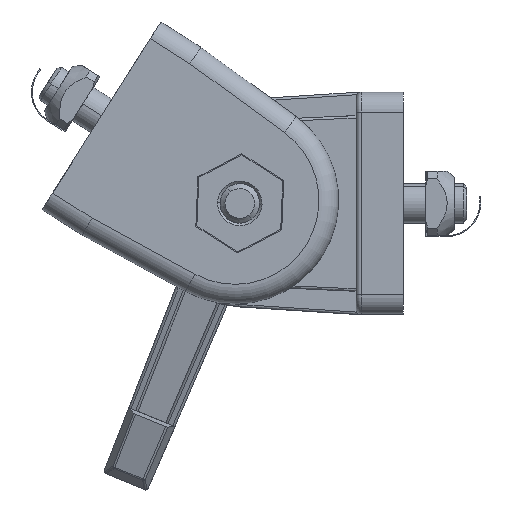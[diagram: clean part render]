
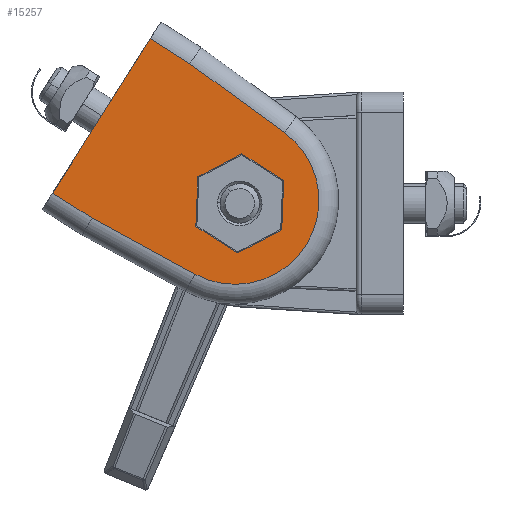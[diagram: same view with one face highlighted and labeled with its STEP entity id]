
A CAD part, left-side view. The second image highlights one B-rep face of the part: STEP entity #15257.
In plain terms, the highlighted planar face has unit normal (-1, 0, 0) as drawn and (1, 0, 0) by its records, which use the part's own axes.
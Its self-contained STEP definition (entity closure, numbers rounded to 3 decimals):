
#126 = EDGE_CURVE ( 'NONE', #1250, #7880, #1759, .T. ) ;
#231 = CARTESIAN_POINT ( 'NONE',  ( 22.5, 9.47, -18.5 ) ) ;
#339 = DIRECTION ( 'NONE',  ( 0., 0., 1. ) ) ;
#542 = CARTESIAN_POINT ( 'NONE',  ( 22.5, 9.6, 18.5 ) ) ;
#691 = VERTEX_POINT ( 'NONE', #8031 ) ;
#952 = DIRECTION ( 'NONE',  ( 0., -0.998, 0.065 ) ) ;
#1250 = VERTEX_POINT ( 'NONE', #6195 ) ;
#1322 = FACE_OUTER_BOUND ( 'NONE', #1824, .T. ) ;
#1592 = EDGE_CURVE ( 'NONE', #2680, #8311, #2579, .T. ) ;
#1629 = CARTESIAN_POINT ( 'NONE',  ( 22.5, 44.537, 2.329 ) ) ;
#1671 = DIRECTION ( 'NONE',  ( 0., -1., 0. ) ) ;
#1741 = VECTOR ( 'NONE', #8243, 1000. ) ;
#1759 = LINE ( 'NONE', #542, #8146 ) ;
#1824 = EDGE_LOOP ( 'NONE', ( #9660, #10597, #10703, #3017, #2762, #3650 ) ) ;
#1933 = VERTEX_POINT ( 'NONE', #10987 ) ;
#2477 = ORIENTED_EDGE ( 'NONE', *, *, #13490, .F. ) ;
#2535 = DIRECTION ( 'NONE',  ( 0., 0.5, -0.866 ) ) ;
#2562 = DIRECTION ( 'NONE',  ( -1., 0., 0. ) ) ;
#2579 = LINE ( 'NONE', #11571, #7726 ) ;
#2619 = EDGE_CURVE ( 'NONE', #8311, #13836, #4952, .T. ) ;
#2680 = VERTEX_POINT ( 'NONE', #6460 ) ;
#2762 = ORIENTED_EDGE ( 'NONE', *, *, #3822, .T. ) ;
#2855 = ORIENTED_EDGE ( 'NONE', *, *, #1592, .F. ) ;
#2946 = CARTESIAN_POINT ( 'NONE',  ( 22.5, 9.6, 8.7 ) ) ;
#3017 = ORIENTED_EDGE ( 'NONE', *, *, #4027, .T. ) ;
#3125 = CIRCLE ( 'NONE', #10044, 17. ) ;
#3160 = ORIENTED_EDGE ( 'NONE', *, *, #2619, .F. ) ;
#3346 = ORIENTED_EDGE ( 'NONE', *, *, #11575, .F. ) ;
#3413 = VERTEX_POINT ( 'NONE', #231 ) ;
#3650 = ORIENTED_EDGE ( 'NONE', *, *, #126, .T. ) ;
#3822 = EDGE_CURVE ( 'NONE', #9044, #1250, #4677, .T. ) ;
#4027 = EDGE_CURVE ( 'NONE', #12937, #9044, #3125, .T. ) ;
#4045 = PLANE ( 'NONE',  #9208 ) ;
#4184 = CARTESIAN_POINT ( 'NONE',  ( 22.5, 28.123, -8.7 ) ) ;
#4677 = LINE ( 'NONE', #9773, #11650 ) ;
#4907 = DIRECTION ( 'NONE',  ( 0., -0.5, -0.866 ) ) ;
#4952 = LINE ( 'NONE', #10048, #5358 ) ;
#5358 = VECTOR ( 'NONE', #2535, 1000. ) ;
#5384 = CARTESIAN_POINT ( 'NONE',  ( 22.5, 9.6, -8.7 ) ) ;
#5410 = CARTESIAN_POINT ( 'NONE',  ( 22.5, 43.192, 0. ) ) ;
#5732 = LINE ( 'NONE', #9569, #10425 ) ;
#5939 = ORIENTED_EDGE ( 'NONE', *, *, #6788, .F. ) ;
#5991 = DIRECTION ( 'NONE',  ( 0., 0.998, 0.065 ) ) ;
#6195 = CARTESIAN_POINT ( 'NONE',  ( 22.5, 9.47, 18.5 ) ) ;
#6300 = VECTOR ( 'NONE', #9203, 1000. ) ;
#6405 = VECTOR ( 'NONE', #11826, 1000. ) ;
#6460 = CARTESIAN_POINT ( 'NONE',  ( 22.5, 28.123, 8.7 ) ) ;
#6605 = EDGE_CURVE ( 'NONE', #1933, #3413, #8989, .T. ) ;
#6788 = EDGE_CURVE ( 'NONE', #9156, #691, #5732, .T. ) ;
#6790 = DIRECTION ( 'NONE',  ( 0., -1., 0. ) ) ;
#6830 = EDGE_CURVE ( 'NONE', #3413, #12937, #7254, .T. ) ;
#7254 = LINE ( 'NONE', #9983, #11759 ) ;
#7272 = VERTEX_POINT ( 'NONE', #11212 ) ;
#7349 = VECTOR ( 'NONE', #6790, 1000. ) ;
#7726 = VECTOR ( 'NONE', #4907, 1000. ) ;
#7880 = VERTEX_POINT ( 'NONE', #14967 ) ;
#8031 = CARTESIAN_POINT ( 'NONE',  ( 22.5, 38.169, 8.7 ) ) ;
#8146 = VECTOR ( 'NONE', #1671, 1000. ) ;
#8243 = DIRECTION ( 'NONE',  ( 0., 1., 0. ) ) ;
#8311 = VERTEX_POINT ( 'NONE', #12633 ) ;
#8518 = DIRECTION ( 'NONE',  ( 0., 0., 1. ) ) ;
#8989 = LINE ( 'NONE', #11573, #6405 ) ;
#9044 = VERTEX_POINT ( 'NONE', #10174 ) ;
#9156 = VERTEX_POINT ( 'NONE', #5410 ) ;
#9203 = DIRECTION ( 'NONE',  ( 0., 0.5, 0.866 ) ) ;
#9208 = AXIS2_PLACEMENT_3D ( 'NONE', #11645, #2562, #339 ) ;
#9569 = CARTESIAN_POINT ( 'NONE',  ( 22.5, 25.051, 31.421 ) ) ;
#9660 = ORIENTED_EDGE ( 'NONE', *, *, #13415, .T. ) ;
#9773 = CARTESIAN_POINT ( 'NONE',  ( 22.5, 9.341, 18.508 ) ) ;
#9983 = CARTESIAN_POINT ( 'NONE',  ( 22.5, 33.102, -16.964 ) ) ;
#10044 = AXIS2_PLACEMENT_3D ( 'NONE', #11166, #11079, #8518 ) ;
#10048 = CARTESIAN_POINT ( 'NONE',  ( 22.5, 9.982, 22.721 ) ) ;
#10070 = CARTESIAN_POINT ( 'NONE',  ( 22.5, 33.102, -16.964 ) ) ;
#10174 = CARTESIAN_POINT ( 'NONE',  ( 22.5, 33.102, 16.964 ) ) ;
#10425 = VECTOR ( 'NONE', #14611, 1000. ) ;
#10597 = ORIENTED_EDGE ( 'NONE', *, *, #6605, .T. ) ;
#10703 = ORIENTED_EDGE ( 'NONE', *, *, #6830, .T. ) ;
#10987 = CARTESIAN_POINT ( 'NONE',  ( 22.5, 0., -18.5 ) ) ;
#11079 = DIRECTION ( 'NONE',  ( 1., 0., 0. ) ) ;
#11166 = CARTESIAN_POINT ( 'NONE',  ( 22.5, 32., 0. ) ) ;
#11212 = CARTESIAN_POINT ( 'NONE',  ( 22.5, 38.169, -8.7 ) ) ;
#11571 = CARTESIAN_POINT ( 'NONE',  ( 22.5, 29.468, 11.029 ) ) ;
#11573 = CARTESIAN_POINT ( 'NONE',  ( 22.5, 9.6, -18.5 ) ) ;
#11575 = EDGE_CURVE ( 'NONE', #7272, #9156, #13041, .T. ) ;
#11645 = CARTESIAN_POINT ( 'NONE',  ( 22.5, 9.6, 22.5 ) ) ;
#11650 = VECTOR ( 'NONE', #952, 1000. ) ;
#11759 = VECTOR ( 'NONE', #5991, 1000. ) ;
#11826 = DIRECTION ( 'NONE',  ( 0., 1., 0. ) ) ;
#11983 = LINE ( 'NONE', #5384, #1741 ) ;
#12633 = CARTESIAN_POINT ( 'NONE',  ( 22.5, 23.1, 0. ) ) ;
#12649 = VECTOR ( 'NONE', #12883, 1000. ) ;
#12883 = DIRECTION ( 'NONE',  ( 0., 0., -1. ) ) ;
#12937 = VERTEX_POINT ( 'NONE', #10070 ) ;
#13041 = LINE ( 'NONE', #1629, #6300 ) ;
#13415 = EDGE_CURVE ( 'NONE', #7880, #1933, #13802, .T. ) ;
#13490 = EDGE_CURVE ( 'NONE', #13836, #7272, #11983, .T. ) ;
#13802 = LINE ( 'NONE', #13957, #12649 ) ;
#13836 = VERTEX_POINT ( 'NONE', #4184 ) ;
#13957 = CARTESIAN_POINT ( 'NONE',  ( 22.5, 0., 22.5 ) ) ;
#14328 = LINE ( 'NONE', #2946, #7349 ) ;
#14562 = EDGE_CURVE ( 'NONE', #691, #2680, #14328, .T. ) ;
#14611 = DIRECTION ( 'NONE',  ( 0., -0.5, 0.866 ) ) ;
#14967 = CARTESIAN_POINT ( 'NONE',  ( 22.5, 0., 18.5 ) ) ;
#15257 = ADVANCED_FACE ( 'NONE', ( #15411, #1322 ), #4045, .F. ) ;
#15411 = FACE_BOUND ( 'NONE', #16319, .T. ) ;
#15896 = ORIENTED_EDGE ( 'NONE', *, *, #14562, .F. ) ;
#16319 = EDGE_LOOP ( 'NONE', ( #5939, #3346, #2477, #3160, #2855, #15896 ) ) ;
